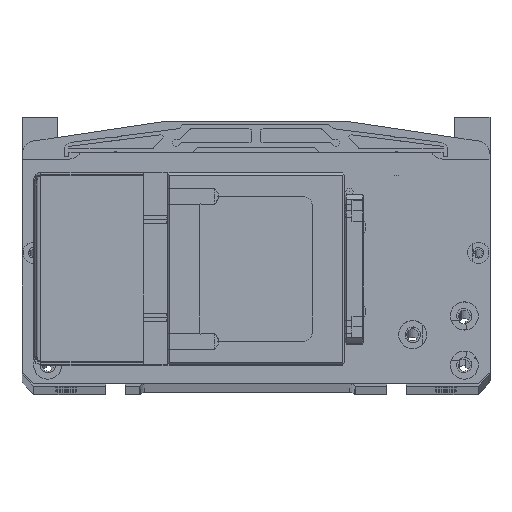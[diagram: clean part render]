
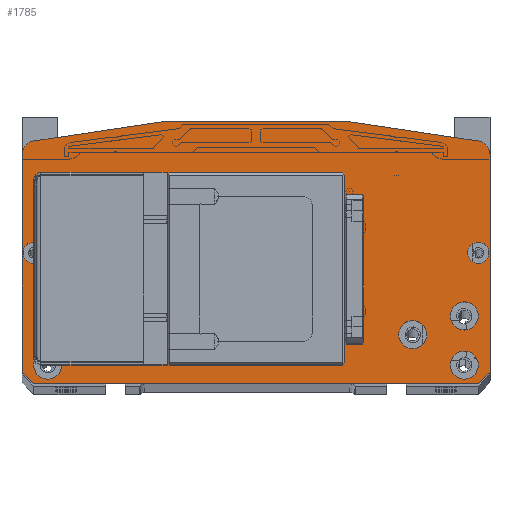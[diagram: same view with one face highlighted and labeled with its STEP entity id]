
A CAD part, top view. The second image highlights one B-rep face of the part: STEP entity #1785.
In plain terms, the highlighted planar face has unit normal (0, 0, 1).
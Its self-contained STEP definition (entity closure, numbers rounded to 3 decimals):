
#1785=ADVANCED_FACE('',(#6357,#6358,#6359,#6360,#6361,#6362,#6363,#6364,
#6365,#6366,#6367,#6368,#6369),#2864,.F.);
#2864=PLANE('',#19784);
#3343=LINE('',#27359,#4850);
#3344=LINE('',#27362,#4851);
#3345=LINE('',#27364,#4852);
#3346=LINE('',#27366,#4853);
#3347=LINE('',#27370,#4854);
#3348=LINE('',#27372,#4855);
#3349=LINE('',#27374,#4856);
#3350=LINE('',#27378,#4857);
#3351=LINE('',#27379,#4858);
#3352=LINE('',#27382,#4859);
#3353=LINE('',#27384,#4860);
#3354=LINE('',#27386,#4861);
#3355=LINE('',#27387,#4862);
#3356=LINE('',#27390,#4863);
#3357=LINE('',#27392,#4864);
#3358=LINE('',#27394,#4865);
#4850=VECTOR('',#21813,1.);
#4851=VECTOR('',#21814,1.);
#4852=VECTOR('',#21815,1.);
#4853=VECTOR('',#21816,1.);
#4854=VECTOR('',#21819,1.);
#4855=VECTOR('',#21820,1.);
#4856=VECTOR('',#21821,1.);
#4857=VECTOR('',#21824,1.);
#4858=VECTOR('',#21825,1.);
#4859=VECTOR('',#21826,1.);
#4860=VECTOR('',#21827,1.);
#4861=VECTOR('',#21828,1.);
#4862=VECTOR('',#21829,1.);
#4863=VECTOR('',#21830,1.);
#4864=VECTOR('',#21831,1.);
#4865=VECTOR('',#21832,1.);
#6357=FACE_BOUND('',#7123,.T.);
#6358=FACE_BOUND('',#7124,.T.);
#6359=FACE_BOUND('',#7125,.T.);
#6360=FACE_BOUND('',#7126,.T.);
#6361=FACE_BOUND('',#7127,.T.);
#6362=FACE_BOUND('',#7128,.T.);
#6363=FACE_BOUND('',#7129,.T.);
#6364=FACE_BOUND('',#7130,.T.);
#6365=FACE_BOUND('',#7131,.T.);
#6366=FACE_BOUND('',#7132,.T.);
#6367=FACE_BOUND('',#7133,.T.);
#6368=FACE_BOUND('',#7134,.T.);
#6369=FACE_BOUND('',#7135,.T.);
#7123=EDGE_LOOP('',(#8630));
#7124=EDGE_LOOP('',(#8631));
#7125=EDGE_LOOP('',(#8632));
#7126=EDGE_LOOP('',(#8633));
#7127=EDGE_LOOP('',(#8634));
#7128=EDGE_LOOP('',(#8635));
#7129=EDGE_LOOP('',(#8636));
#7130=EDGE_LOOP('',(#8637));
#7131=EDGE_LOOP('',(#8638));
#7132=EDGE_LOOP('',(#8639));
#7133=EDGE_LOOP('',(#8640,#8641,#8642,#8643,#8644,#8645,#8646,#8647,#8648,
#8649));
#7134=EDGE_LOOP('',(#8650,#8651,#8652,#8653));
#7135=EDGE_LOOP('',(#8654,#8655,#8656,#8657));
#8630=ORIENTED_EDGE('',*,*,#16064,.T.);
#8631=ORIENTED_EDGE('',*,*,#16065,.T.);
#8632=ORIENTED_EDGE('',*,*,#16066,.T.);
#8633=ORIENTED_EDGE('',*,*,#16067,.T.);
#8634=ORIENTED_EDGE('',*,*,#16068,.T.);
#8635=ORIENTED_EDGE('',*,*,#16069,.T.);
#8636=ORIENTED_EDGE('',*,*,#16070,.T.);
#8637=ORIENTED_EDGE('',*,*,#16071,.T.);
#8638=ORIENTED_EDGE('',*,*,#16072,.T.);
#8639=ORIENTED_EDGE('',*,*,#16073,.T.);
#8640=ORIENTED_EDGE('',*,*,#16074,.F.);
#8641=ORIENTED_EDGE('',*,*,#16075,.T.);
#8642=ORIENTED_EDGE('',*,*,#16076,.F.);
#8643=ORIENTED_EDGE('',*,*,#16077,.T.);
#8644=ORIENTED_EDGE('',*,*,#16078,.F.);
#8645=ORIENTED_EDGE('',*,*,#16079,.F.);
#8646=ORIENTED_EDGE('',*,*,#16080,.T.);
#8647=ORIENTED_EDGE('',*,*,#16081,.F.);
#8648=ORIENTED_EDGE('',*,*,#16082,.F.);
#8649=ORIENTED_EDGE('',*,*,#16083,.T.);
#8650=ORIENTED_EDGE('',*,*,#16084,.T.);
#8651=ORIENTED_EDGE('',*,*,#16085,.T.);
#8652=ORIENTED_EDGE('',*,*,#16086,.T.);
#8653=ORIENTED_EDGE('',*,*,#16087,.T.);
#8654=ORIENTED_EDGE('',*,*,#16088,.F.);
#8655=ORIENTED_EDGE('',*,*,#16089,.F.);
#8656=ORIENTED_EDGE('',*,*,#16090,.T.);
#8657=ORIENTED_EDGE('',*,*,#16091,.T.);
#14160=VERTEX_POINT('',#27340);
#14161=VERTEX_POINT('',#27342);
#14162=VERTEX_POINT('',#27344);
#14163=VERTEX_POINT('',#27346);
#14164=VERTEX_POINT('',#27348);
#14165=VERTEX_POINT('',#27350);
#14166=VERTEX_POINT('',#27352);
#14167=VERTEX_POINT('',#27354);
#14168=VERTEX_POINT('',#27356);
#14169=VERTEX_POINT('',#27358);
#14170=VERTEX_POINT('',#27360);
#14171=VERTEX_POINT('',#27361);
#14172=VERTEX_POINT('',#27363);
#14173=VERTEX_POINT('',#27365);
#14174=VERTEX_POINT('',#27367);
#14175=VERTEX_POINT('',#27369);
#14176=VERTEX_POINT('',#27371);
#14177=VERTEX_POINT('',#27373);
#14178=VERTEX_POINT('',#27375);
#14179=VERTEX_POINT('',#27377);
#14180=VERTEX_POINT('',#27380);
#14181=VERTEX_POINT('',#27381);
#14182=VERTEX_POINT('',#27383);
#14183=VERTEX_POINT('',#27385);
#14184=VERTEX_POINT('',#27388);
#14185=VERTEX_POINT('',#27389);
#14186=VERTEX_POINT('',#27391);
#14187=VERTEX_POINT('',#27393);
#16064=EDGE_CURVE('',#14160,#14160,#18829,.T.);
#16065=EDGE_CURVE('',#14161,#14161,#18830,.T.);
#16066=EDGE_CURVE('',#14162,#14162,#18831,.T.);
#16067=EDGE_CURVE('',#14163,#14163,#18832,.T.);
#16068=EDGE_CURVE('',#14164,#14164,#18833,.T.);
#16069=EDGE_CURVE('',#14165,#14165,#18834,.T.);
#16070=EDGE_CURVE('',#14166,#14166,#18835,.T.);
#16071=EDGE_CURVE('',#14167,#14167,#18836,.T.);
#16072=EDGE_CURVE('',#14168,#14168,#18837,.T.);
#16073=EDGE_CURVE('',#14169,#14169,#18838,.T.);
#16074=EDGE_CURVE('',#14170,#14171,#3343,.T.);
#16075=EDGE_CURVE('',#14170,#14172,#3344,.T.);
#16076=EDGE_CURVE('',#14173,#14172,#3345,.T.);
#16077=EDGE_CURVE('',#14173,#14174,#3346,.T.);
#16078=EDGE_CURVE('',#14175,#14174,#18839,.T.);
#16079=EDGE_CURVE('',#14176,#14175,#3347,.T.);
#16080=EDGE_CURVE('',#14176,#14177,#3348,.T.);
#16081=EDGE_CURVE('',#14178,#14177,#3349,.T.);
#16082=EDGE_CURVE('',#14179,#14178,#18840,.T.);
#16083=EDGE_CURVE('',#14179,#14171,#3350,.T.);
#16084=EDGE_CURVE('',#14180,#14181,#3351,.T.);
#16085=EDGE_CURVE('',#14181,#14182,#3352,.T.);
#16086=EDGE_CURVE('',#14182,#14183,#3353,.T.);
#16087=EDGE_CURVE('',#14183,#14180,#3354,.T.);
#16088=EDGE_CURVE('',#14184,#14185,#3355,.T.);
#16089=EDGE_CURVE('',#14186,#14184,#3356,.T.);
#16090=EDGE_CURVE('',#14186,#14187,#3357,.T.);
#16091=EDGE_CURVE('',#14187,#14185,#3358,.T.);
#18829=CIRCLE('',#19772,1.65);
#18830=CIRCLE('',#19773,1.65);
#18831=CIRCLE('',#19774,4.5);
#18832=CIRCLE('',#19775,4.5);
#18833=CIRCLE('',#19776,6.);
#18834=CIRCLE('',#19777,6.);
#18835=CIRCLE('',#19778,6.);
#18836=CIRCLE('',#19779,6.);
#18837=CIRCLE('',#19780,6.);
#18838=CIRCLE('',#19781,6.);
#18839=CIRCLE('',#19782,6.);
#18840=CIRCLE('',#19783,6.);
#19772=AXIS2_PLACEMENT_3D('',#27339,#21793,#21794);
#19773=AXIS2_PLACEMENT_3D('',#27341,#21795,#21796);
#19774=AXIS2_PLACEMENT_3D('',#27343,#21797,#21798);
#19775=AXIS2_PLACEMENT_3D('',#27345,#21799,#21800);
#19776=AXIS2_PLACEMENT_3D('',#27347,#21801,#21802);
#19777=AXIS2_PLACEMENT_3D('',#27349,#21803,#21804);
#19778=AXIS2_PLACEMENT_3D('',#27351,#21805,#21806);
#19779=AXIS2_PLACEMENT_3D('',#27353,#21807,#21808);
#19780=AXIS2_PLACEMENT_3D('',#27355,#21809,#21810);
#19781=AXIS2_PLACEMENT_3D('',#27357,#21811,#21812);
#19782=AXIS2_PLACEMENT_3D('',#27368,#21817,#21818);
#19783=AXIS2_PLACEMENT_3D('',#27376,#21822,#21823);
#19784=AXIS2_PLACEMENT_3D('',#27395,#21833,#21834);
#21793=DIRECTION('',(0.,0.,-1.));
#21794=DIRECTION('',(1.,0.,0.));
#21795=DIRECTION('',(0.,0.,-1.));
#21796=DIRECTION('',(1.,0.,0.));
#21797=DIRECTION('',(0.,0.,-1.));
#21798=DIRECTION('',(1.,0.,0.));
#21799=DIRECTION('',(0.,0.,-1.));
#21800=DIRECTION('',(1.,0.,0.));
#21801=DIRECTION('',(0.,0.,-1.));
#21802=DIRECTION('',(1.,0.,0.));
#21803=DIRECTION('',(0.,0.,-1.));
#21804=DIRECTION('',(1.,0.,0.));
#21805=DIRECTION('',(0.,0.,-1.));
#21806=DIRECTION('',(1.,0.,0.));
#21807=DIRECTION('',(0.,0.,-1.));
#21808=DIRECTION('',(1.,0.,0.));
#21809=DIRECTION('',(0.,0.,-1.));
#21810=DIRECTION('',(1.,0.,0.));
#21811=DIRECTION('',(0.,0.,-1.));
#21812=DIRECTION('',(1.,0.,0.));
#21813=DIRECTION('',(-0.707,0.707,0.));
#21814=DIRECTION('',(1.,0.,0.));
#21815=DIRECTION('',(-0.707,-0.707,0.));
#21816=DIRECTION('',(0.,1.,0.));
#21817=DIRECTION('',(0.,0.,-1.));
#21818=DIRECTION('',(0.148,0.989,0.));
#21819=DIRECTION('',(0.989,-0.148,0.));
#21820=DIRECTION('',(-1.,0.,0.));
#21821=DIRECTION('',(0.989,0.148,0.));
#21822=DIRECTION('',(0.,0.,-1.));
#21823=DIRECTION('',(-1.,0.,0.));
#21824=DIRECTION('',(0.,-1.,0.));
#21825=DIRECTION('',(0.,1.,0.));
#21826=DIRECTION('',(1.,0.,0.));
#21827=DIRECTION('',(0.,-1.,0.));
#21828=DIRECTION('',(-1.,0.,0.));
#21829=DIRECTION('',(0.,1.,0.));
#21830=DIRECTION('',(1.,0.,0.));
#21831=DIRECTION('',(0.,1.,0.));
#21832=DIRECTION('',(1.,0.,0.));
#21833=DIRECTION('',(0.,0.,-1.));
#21834=DIRECTION('',(-1.,0.,0.));
#27339=CARTESIAN_POINT('',(-42.,33.,463.));
#27340=CARTESIAN_POINT('',(-40.35,33.,463.));
#27341=CARTESIAN_POINT('',(-42.,69.,463.));
#27342=CARTESIAN_POINT('',(-40.35,69.,463.));
#27343=CARTESIAN_POINT('',(-95.,58.,463.));
#27344=CARTESIAN_POINT('',(-90.5,58.,463.));
#27345=CARTESIAN_POINT('',(95.,58.,463.));
#27346=CARTESIAN_POINT('',(99.5,58.,463.));
#27347=CARTESIAN_POINT('',(-67.,23.,463.));
#27348=CARTESIAN_POINT('',(-61.,23.,463.));
#27349=CARTESIAN_POINT('',(67.,23.,463.));
#27350=CARTESIAN_POINT('',(73.,23.,463.));
#27351=CARTESIAN_POINT('',(-89.,31.,463.));
#27352=CARTESIAN_POINT('',(-83.,31.,463.));
#27353=CARTESIAN_POINT('',(89.,31.,463.));
#27354=CARTESIAN_POINT('',(95.,31.,463.));
#27355=CARTESIAN_POINT('',(-89.,10.,463.));
#27356=CARTESIAN_POINT('',(-83.,10.,463.));
#27357=CARTESIAN_POINT('',(89.,10.,463.));
#27358=CARTESIAN_POINT('',(95.,10.,463.));
#27359=CARTESIAN_POINT('',(-95.,2.,463.));
#27360=CARTESIAN_POINT('',(-95.,2.,463.));
#27361=CARTESIAN_POINT('',(-100.,7.,463.));
#27362=CARTESIAN_POINT('',(67.5,2.,463.));
#27363=CARTESIAN_POINT('',(95.,2.,463.));
#27364=CARTESIAN_POINT('',(100.,7.,463.));
#27365=CARTESIAN_POINT('',(100.,7.,463.));
#27366=CARTESIAN_POINT('',(100.,7.,463.));
#27367=CARTESIAN_POINT('',(100.,99.833,463.));
#27368=CARTESIAN_POINT('',(94.,99.833,463.));
#27369=CARTESIAN_POINT('',(94.89,105.766,463.));
#27370=CARTESIAN_POINT('',(40.,114.,463.));
#27371=CARTESIAN_POINT('',(40.,114.,463.));
#27372=CARTESIAN_POINT('',(40.,114.,463.));
#27373=CARTESIAN_POINT('',(-40.,114.,463.));
#27374=CARTESIAN_POINT('',(-94.89,105.766,463.));
#27375=CARTESIAN_POINT('',(-94.89,105.766,463.));
#27376=CARTESIAN_POINT('',(-94.,99.833,463.));
#27377=CARTESIAN_POINT('',(-100.,99.833,463.));
#27378=CARTESIAN_POINT('',(-100.,99.833,463.));
#27379=CARTESIAN_POINT('',(-37.,91.,463.));
#27380=CARTESIAN_POINT('',(-37.,11.,463.));
#27381=CARTESIAN_POINT('',(-37.,91.,463.));
#27382=CARTESIAN_POINT('',(37.,91.,463.));
#27383=CARTESIAN_POINT('',(37.,91.,463.));
#27384=CARTESIAN_POINT('',(37.,11.,463.));
#27385=CARTESIAN_POINT('',(37.,11.,463.));
#27386=CARTESIAN_POINT('',(-37.,11.,463.));
#27387=CARTESIAN_POINT('',(45.5,80.466,463.));
#27388=CARTESIAN_POINT('',(45.5,21.534,463.));
#27389=CARTESIAN_POINT('',(45.5,80.466,463.));
#27390=CARTESIAN_POINT('',(45.5,21.534,463.));
#27391=CARTESIAN_POINT('',(38.5,21.534,463.));
#27392=CARTESIAN_POINT('',(38.5,80.466,463.));
#27393=CARTESIAN_POINT('',(38.5,80.466,463.));
#27394=CARTESIAN_POINT('',(45.5,80.466,463.));
#27395=CARTESIAN_POINT('',(0.,2.,463.));
